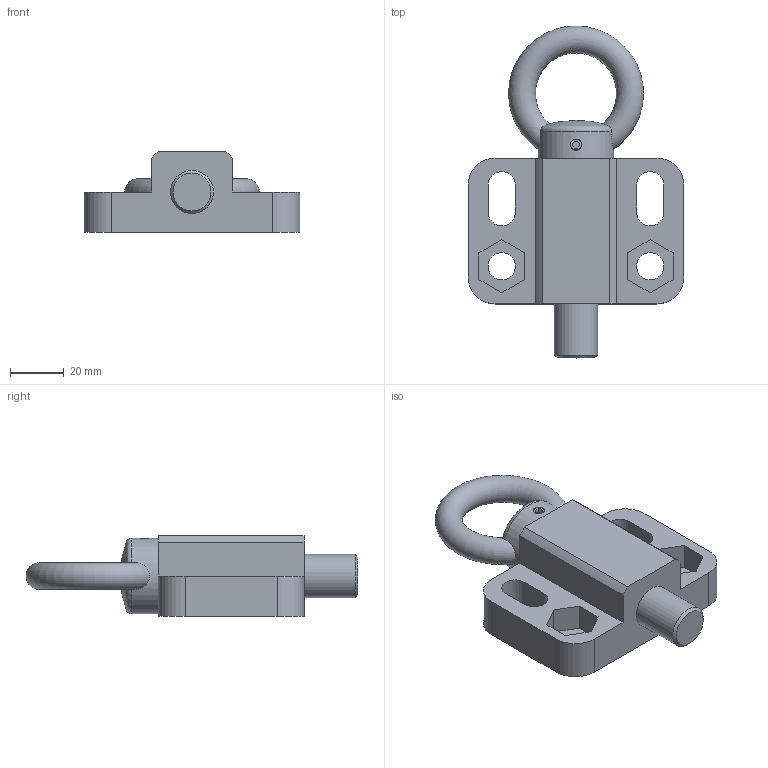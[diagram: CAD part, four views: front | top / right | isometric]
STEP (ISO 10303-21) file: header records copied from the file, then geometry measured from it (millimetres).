
FILE_DESCRIPTION(/* description */ ('STEP AP214'),/* implementation_level */ '2;1');
FILE_NAME(/* name */ 'Indexing plunger GN 722.6-16-30-A-ZB (deactivated)',/* time_stamp */ '2023-02-28T07:38:49+01:00',/* author */ ('License CC BY-ND 4.0'),/* organization */ ('CADENAS'),/* preprocessor_version */ 'ST-DEVELOPER v18.102',/* originating_system */ 'PARTsolutions',/* authorisation */ ' ');
FILE_SCHEMA (('AUTOMOTIVE_DESIGN {1 0 10303 214 3 1 1}'));
Length unit declared in the file: millimetre
Products named in the file (3): Indexing plunger GN 722.6-16-30-A-ZB (deactivated); Indexing plunger GN 722.6-16-30-A-ZB (deactivated)-2; Indexing plunger GN 722.6-16-30-A-ZB (deactivated)-1
Assembly tree (2 placements, depth 2):
  Indexing plunger GN 722.6-16-30-A-ZB (deactivated)
    Indexing plunger GN 722.6-16-30-A-ZB (deactivated)-2
    Indexing plunger GN 722.6-16-30-A-ZB (deactivated)-1
Bounding box: 80 x 122.99 x 30 mm (x, y, z)
Volume: 94558.9 mm3; surface area: 28076.7 mm2
Topology: 2 solids, 2 shells, 68 faces, 170 edges, 112 vertices
Faces by surface type: plane 42, cylinder 20, torus 3, cone 2, sphere 1
Full cylindrical faces by diameter (mm): 4.2 x1, 10.1 x2, 16 x4, 18 x2, 28 x1
Entity records: 2068 total; most frequent: CARTESIAN_POINT 391, DIRECTION 330, ORIENTED_EDGE 306, EDGE_CURVE 153, AXIS2_PLACEMENT_3D 115, VERTEX_POINT 109, LINE 100, VECTOR 100
